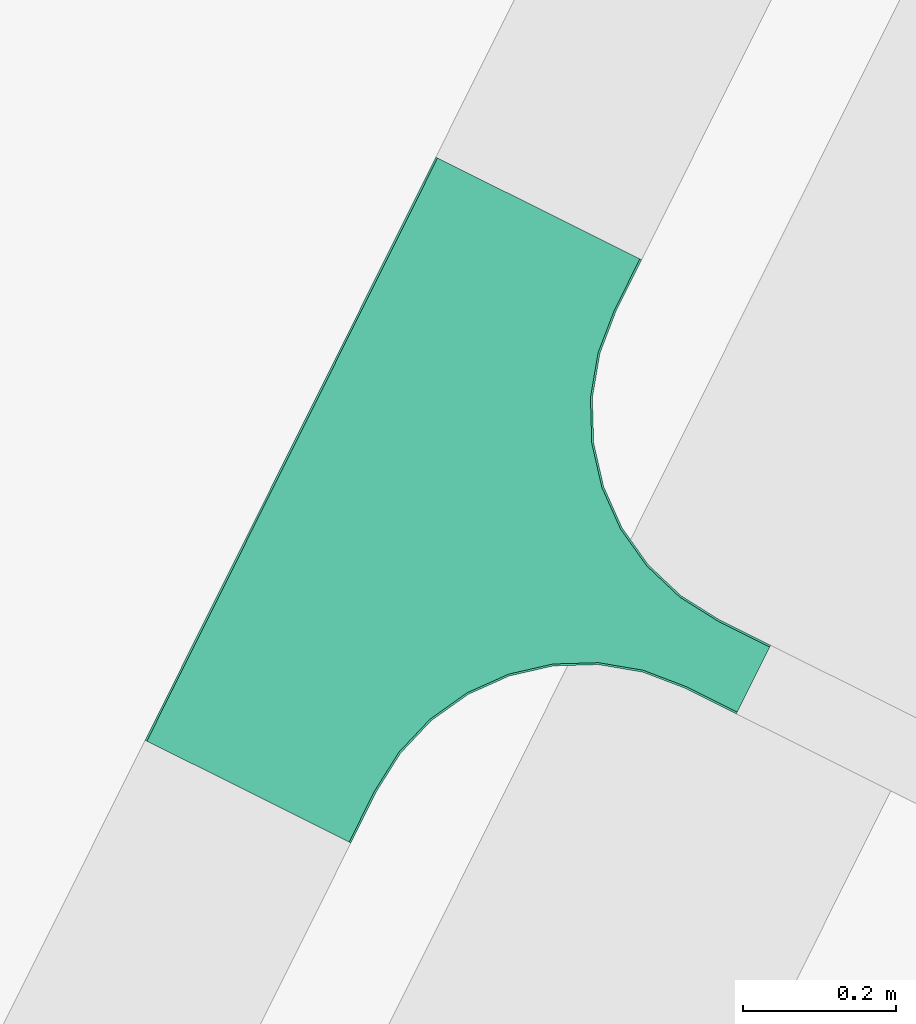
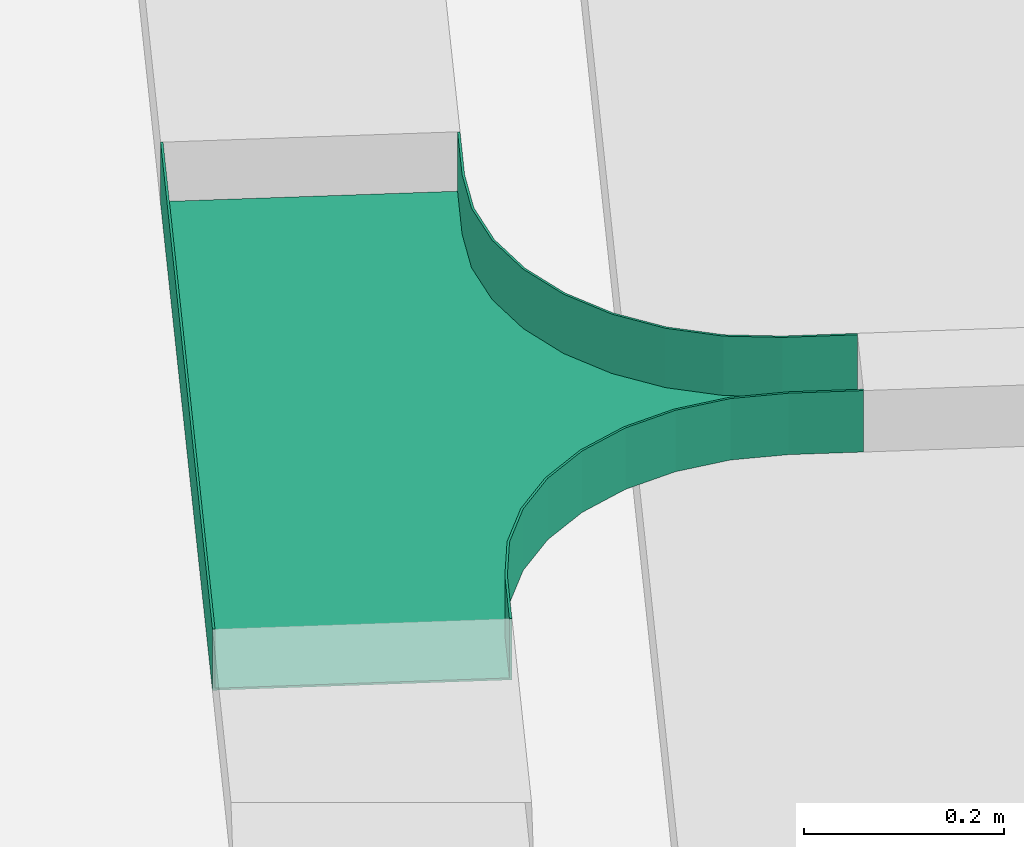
# One storey, part 85 of 91: 1 flow fitting.
"""IFC2X3 building model written with IfcOpenShell, lengths in metres."""

from ifc_helpers import new_model, entity, si_unit, converted_unit, derived_unit, direction, frame, origin, place, context, subcontext, project, spatial, faceted_brep, source, transform, mapped, type_object, type_shapes, element, save


model = new_model("IFC2X3")

# Units and contexts
model_context = context("Model", 3, precision=1e-05, world=origin(), true_north=direction((0.894925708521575, 0.446215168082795)))
context_of_model = context(None, 3, precision=1e-05, world=origin(), true_north=direction((0.894925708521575, 0.446215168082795)))
body_context = subcontext(model_context, "Body", "Model", "MODEL_VIEW")
ifc_project = project(units=[si_unit("LENGTHUNIT", "METRE"), si_unit("AREAUNIT", "SQUARE_METRE"), si_unit("VOLUMEUNIT", "CUBIC_METRE"), converted_unit("PLANEANGLEUNIT", "DEGREE", entity("IfcRatioMeasure", 0.0174532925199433), si_unit("PLANEANGLEUNIT", "RADIAN"), dimensions=[0, 0, 0, 0, 0, 0, 0]), si_unit("MASSUNIT", "GRAM", prefix="KILO"), si_unit("TIMEUNIT", "SECOND"), si_unit("FREQUENCYUNIT", "HERTZ"), si_unit("THERMODYNAMICTEMPERATUREUNIT", "DEGREE_CELSIUS"), derived_unit("THERMALTRANSMITTANCEUNIT", [(si_unit("MASSUNIT", "GRAM", prefix="KILO"), 1), (si_unit("THERMODYNAMICTEMPERATUREUNIT", "KELVIN"), -1), (si_unit("TIMEUNIT", "SECOND"), -3)]), derived_unit("VOLUMETRICFLOWRATEUNIT", [(si_unit("LENGTHUNIT", "METRE"), 3), (si_unit("TIMEUNIT", "SECOND"), -1)]), si_unit("ELECTRICCURRENTUNIT", "AMPERE"), si_unit("ELECTRICVOLTAGEUNIT", "VOLT"), si_unit("POWERUNIT", "WATT"), si_unit("FORCEUNIT", "NEWTON", prefix="KILO"), si_unit("ILLUMINANCEUNIT", "LUX"), si_unit("LUMINOUSFLUXUNIT", "LUMEN"), si_unit("LUMINOUSINTENSITYUNIT", "CANDELA"), si_unit("PRESSUREUNIT", "PASCAL")], contexts=[model_context, context_of_model])

# Site, building, storey
site_placement = place(None, frame((218.228324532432, 584.720189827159, 0.0), z_axis=(0.0, 0.0, 1.0), x_axis=(0.446215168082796, 0.894925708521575, 0.0)))
site = spatial("IfcSite", under=ifc_project, at=site_placement, Name="Default", CompositionType="ELEMENT")
building_placement = place(site_placement, origin())
building = spatial("IfcBuilding", under=site, at=building_placement, CompositionType="ELEMENT")
storey_placement = place(building_placement, origin())
storey = spatial("IfcBuildingStorey", under=building, at=storey_placement, Name="0 - Piano Terra", CompositionType="ELEMENT", Elevation=0.0)

# Flow fitting
cable_carrier_fitting_type = type_object("IfcCableCarrierFittingType", Name="Raggio 300 mm", PredefinedType="NOTDEFINED")
shared_shape = source(origin(), body_context, "Body", "Brep", [
    faceted_brep([(-0.349999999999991, -0.147460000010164, 0.0374999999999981), (-0.424999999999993, -0.147460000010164, 0.0374999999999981), (-0.424999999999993, -0.150000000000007, 0.0374999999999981), (-0.350000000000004, -0.150000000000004, 0.0374999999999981), (-0.291472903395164, -0.155764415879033, 0.0374999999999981), (-0.235194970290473, -0.172836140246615, 0.0374999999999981), (-0.183328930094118, -0.200559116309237, 0.0374999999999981), (-0.137867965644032, -0.237867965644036, 0.0374999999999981), (-0.100559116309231, -0.28332893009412, 0.0374999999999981), (-0.0728361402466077, -0.335194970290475, 0.0374999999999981), (-0.0557644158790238, -0.391472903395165, 0.0374999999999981), (-0.0499999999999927, -0.450000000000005, 0.0374999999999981), (-0.0499999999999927, -0.525000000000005, 0.0374999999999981), (-0.0474600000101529, -0.525000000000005, 0.0374999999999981), (-0.0474600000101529, -0.450000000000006, 0.0374999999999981), (-0.053273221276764, -0.390977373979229, 0.0374999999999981), (-0.070489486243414, -0.33422295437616, 0.0374999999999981), (-0.0984471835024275, -0.2819177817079, 0.0374999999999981), (-0.136071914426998, -0.236071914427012, 0.0374999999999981), (-0.181917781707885, -0.198447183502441, 0.0374999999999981), (-0.234222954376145, -0.170489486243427, 0.0374999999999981), (-0.290977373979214, -0.153273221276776, 0.0374999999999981), (0.23422295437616, -0.170489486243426, 0.0374999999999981), (0.181917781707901, -0.19844718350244, 0.0374999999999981), (0.136071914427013, -0.236071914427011, 0.0374999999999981), (0.0984471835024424, -0.281917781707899, 0.0374999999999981), (0.0704894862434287, -0.334222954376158, 0.0374999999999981), (0.0532732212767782, -0.390977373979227, 0.0374999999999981), (0.0474600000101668, -0.450000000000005, 0.0374999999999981), (0.0474600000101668, -0.525000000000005, 0.0374999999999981), (0.0500000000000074, -0.525000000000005, 0.0374999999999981), (0.0500000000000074, -0.450000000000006, 0.0374999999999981), (0.0557644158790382, -0.391472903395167, 0.0374999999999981), (0.0728361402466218, -0.335194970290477, 0.0374999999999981), (0.100559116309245, -0.283328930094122, 0.0374999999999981), (0.137867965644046, -0.237867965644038, 0.0374999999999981), (0.183328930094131, -0.200559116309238, 0.0374999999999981), (0.235194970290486, -0.172836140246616, 0.0374999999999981), (0.291472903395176, -0.155764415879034, 0.0374999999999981), (0.35000000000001, -0.150000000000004, 0.0374999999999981), (0.425000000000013, -0.150000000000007, 0.0374999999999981), (0.425000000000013, -0.147460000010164, 0.0374999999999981), (0.350000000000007, -0.147460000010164, 0.0374999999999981), (0.290977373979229, -0.153273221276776, 0.0374999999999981), (0.425000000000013, 0.149999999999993, 0.0374999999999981), (-0.424999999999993, 0.149999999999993, 0.0374999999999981), (-0.424999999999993, 0.147460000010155, 0.0374999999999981), (0.425000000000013, 0.147460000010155, 0.0374999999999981), (-0.0499999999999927, -0.450000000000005, -0.0375000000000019), (-0.0557644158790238, -0.391472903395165, -0.0375000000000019), (-0.0728361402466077, -0.335194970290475, -0.0375000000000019), (-0.100559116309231, -0.28332893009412, -0.0375000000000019), (-0.137867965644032, -0.237867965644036, -0.0375000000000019), (-0.183328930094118, -0.200559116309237, -0.0375000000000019), (-0.235194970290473, -0.172836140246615, -0.0375000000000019), (-0.291472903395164, -0.155764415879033, -0.0375000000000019), (-0.349999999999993, -0.150000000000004, -0.0375000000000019), (-0.424999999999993, -0.150000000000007, -0.0375000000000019), (-0.424999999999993, 0.149999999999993, -0.0375000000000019), (0.425000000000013, 0.149999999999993, -0.0375000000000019), (0.425000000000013, -0.150000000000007, -0.0375000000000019), (0.350000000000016, -0.150000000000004, -0.0375000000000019), (0.291472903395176, -0.155764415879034, -0.0375000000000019), (0.235194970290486, -0.172836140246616, -0.0375000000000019), (0.183328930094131, -0.200559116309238, -0.0375000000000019), (0.137867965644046, -0.237867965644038, -0.0375000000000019), (0.100559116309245, -0.283328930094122, -0.0375000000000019), (0.0728361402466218, -0.335194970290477, -0.0375000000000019), (0.0557644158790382, -0.391472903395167, -0.0375000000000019), (0.0500000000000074, -0.450000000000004, -0.0375000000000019), (0.0500000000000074, -0.525000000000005, -0.0375000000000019), (-0.0499999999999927, -0.525000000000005, -0.0375000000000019), (-0.0499999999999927, -0.450000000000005, -0.0349600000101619), (0.0474600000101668, -0.525000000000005, -0.0349600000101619), (-0.0474600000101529, -0.525000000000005, -0.0349600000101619), (-0.0474600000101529, -0.450000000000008, -0.0349600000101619), (-0.0532732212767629, -0.390977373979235, -0.0349600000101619), (-0.0704894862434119, -0.334222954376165, -0.0349600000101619), (-0.0984471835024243, -0.281917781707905, -0.0349600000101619), (-0.136071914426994, -0.236071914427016, -0.0349600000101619), (-0.181917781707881, -0.198447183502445, -0.0349600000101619), (-0.23422295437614, -0.170489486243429, -0.0349600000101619), (-0.290977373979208, -0.153273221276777, -0.0349600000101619), (-0.349999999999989, -0.147460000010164, -0.0349600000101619), (-0.424999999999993, -0.147460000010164, -0.0349600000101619), (0.425000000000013, -0.147460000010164, -0.0349600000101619), (0.350000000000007, -0.147460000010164, -0.0349600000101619), (-0.424999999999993, 0.147460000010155, -0.0349600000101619), (-0.350000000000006, -0.150000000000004, -0.0349600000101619), (0.350000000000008, -0.150000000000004, -0.0349600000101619), (0.0500000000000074, -0.450000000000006, -0.0349600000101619), (0.425000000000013, 0.147460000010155, -0.0349600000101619), (0.290977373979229, -0.153273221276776, -0.0349600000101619), (0.23422295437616, -0.170489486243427, -0.0349600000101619), (0.181917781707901, -0.19844718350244, -0.0349600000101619), (0.136071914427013, -0.236071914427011, -0.0349600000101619), (0.0984471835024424, -0.281917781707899, -0.0349600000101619), (0.0704894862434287, -0.334222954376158, -0.0349600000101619), (0.0532732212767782, -0.390977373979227, -0.0349600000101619), (0.0474600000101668, -0.450000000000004, -0.0349600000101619)], [[[0, 1, 2, 3, 4, 5, 6, 7, 8, 9, 10, 11, 12, 13, 14, 15, 16, 17, 18, 19, 20, 21]], [[22, 23, 24, 25, 26, 27, 28, 29, 30, 31, 32, 33, 34, 35, 36, 37, 38, 39, 40, 41, 42, 43]], [[44, 45, 46, 47]], [[48, 49, 50, 51, 52, 53, 54, 55, 56, 57, 58, 59, 60, 61, 62, 63, 64, 65, 66, 67, 68, 69, 70, 71]], [[12, 11, 72, 48, 71]], [[13, 12, 71, 70, 30, 29, 73, 74]], [[14, 13, 74, 75]], [[15, 14, 75, 76]], [[76, 77, 16, 15]], [[78, 17, 16, 77]], [[17, 78, 79, 18]], [[19, 80, 81, 20]], [[20, 81, 82, 21]], [[21, 82, 83, 0]], [[79, 80, 19, 18]], [[1, 0, 83, 84]], [[42, 41, 85, 86]], [[46, 45, 58, 57, 2, 1, 84, 87]], [[3, 2, 57, 56, 88]], [[40, 39, 89, 61, 60]], [[4, 3, 88, 56, 55]], [[6, 5, 54, 53]], [[4, 55, 54, 5]], [[53, 52, 7, 6]], [[9, 8, 51, 50]], [[72, 11, 10, 49, 48]], [[49, 10, 9, 50]], [[51, 8, 7, 52]], [[32, 31, 90, 69, 68]], [[33, 32, 68, 67]], [[34, 33, 67, 66]], [[35, 34, 66, 65]], [[36, 35, 65, 64]], [[38, 37, 63, 62]], [[36, 64, 63, 37]], [[38, 62, 61, 89, 39]], [[41, 40, 60, 59, 44, 47, 91, 85]], [[43, 42, 86, 92]], [[92, 93, 22, 43]], [[94, 23, 22, 93]], [[95, 24, 23, 94]], [[25, 96, 97, 26]], [[26, 97, 98, 27]], [[27, 98, 99, 28]], [[95, 96, 25, 24]], [[29, 28, 99, 73]], [[31, 30, 70, 69, 90]], [[45, 44, 59, 58]], [[47, 46, 87, 91]], [[87, 84, 83, 82, 81, 80, 79, 78, 77, 76, 75, 74, 73, 99, 98, 97, 96, 95, 94, 93, 92, 86, 85, 91]]]),
])
type_shapes(cable_carrier_fitting_type, [shared_shape])
flow_fitting_placement = place(storey_placement, frame((-55.2537571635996, -3.45107899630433, 3.8)))
element("IfcFlowFitting", 1, at=flow_fitting_placement, inside=storey, type_object=cable_carrier_fitting_type, Name="M_Raccordo a T orizzontale canale:Raggio 300 mm", ObjectType="Raggio 300 mm", context=body_context, shape_type="MappedRepresentation", body=[
    mapped(shared_shape, transform((0.0, 0.0, 0.0), scale=1.0)),
])

save(model, "model.ifc")
